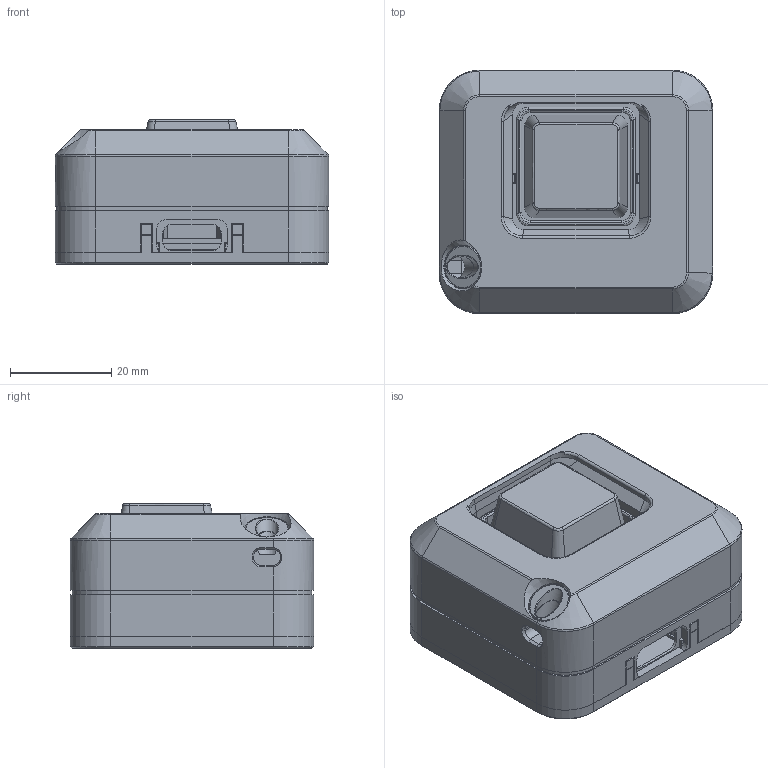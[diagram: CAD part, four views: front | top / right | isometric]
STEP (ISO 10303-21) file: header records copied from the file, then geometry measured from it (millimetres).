
FILE_DESCRIPTION(('Open CASCADE Model'),'2;1');
FILE_NAME('Open CASCADE Shape Model','2026-10-07T16:08:45',('Author'),( 'Open CASCADE'),'Open CASCADE STEP processor 7.9','Open CASCADE 7.9' ,'Unknown');
FILE_SCHEMA(('AUTOMOTIVE_DESIGN { 1 0 10303 214 1 1 1 1 }'));
Length unit declared in the file: millimetre
Products named in the file (10): AirGap_Paste_Pocket_Recess; 01_shell; 02_base; 03_keycap; 04_halo; 09_eye_bushing; 05_mx_plate; 07_xiao_wedge; 06_lightguide_left; 06_lightguide_right
Assembly tree (9 placements, depth 2):
  AirGap_Paste_Pocket_Recess
    01_shell
    02_base
    03_keycap
    04_halo
    09_eye_bushing
    05_mx_plate
    07_xiao_wedge
    06_lightguide_left
    06_lightguide_right
Bounding box: 54 x 48 x 28.6 mm (x, y, z)
Volume: 31001.3 mm3; surface area: 29877.6 mm2
Topology: 9 solids, 9 shells, 877 faces, 2365 edges, 1534 vertices
Faces by surface type: plane 529, cylinder 109, bspline 103, extrusion 100, cone 19, torus 17
Full cylindrical faces by diameter (mm): 3.4 x6, 4.4 x2, 5.3 x1, 8.4 x1, 8.7 x1
Entity records: 61244 total; most frequent: CARTESIAN_POINT 17686, DIRECTION 6574, ORIENTED_EDGE 4730, PCURVE 4730, DEFINITIONAL_REPRESENTATION 4730, VECTOR 4498, LINE 4398, EDGE_CURVE 2365
